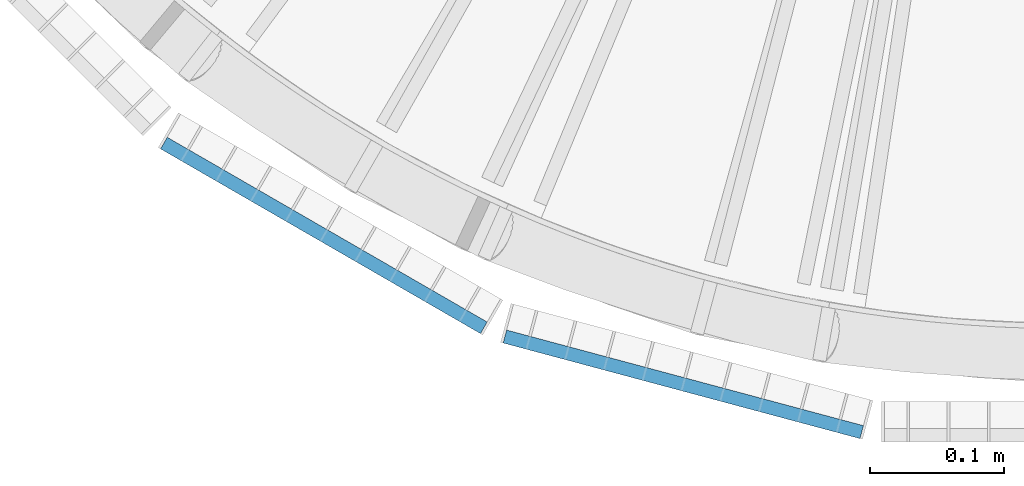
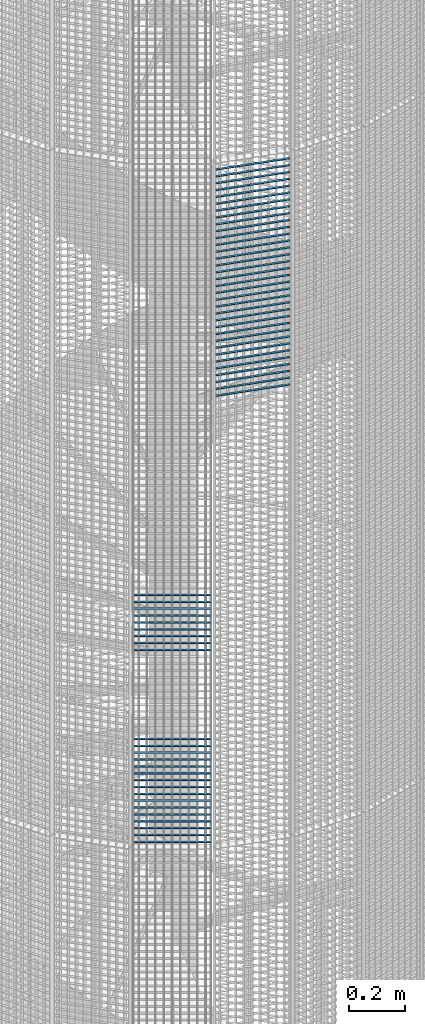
# One storey, part 363 of 1148: 59 beams, 2 elements without a shape of their own.
"""IFC2X3 building model written with IfcOpenShell, lengths in millimetres."""

from ifc_helpers import new_model, si_unit, frame, origin_with_axes, origin_2d_with_axis, place, context, subcontext, project, spatial, rectangle, extrude, material, type_object, element, aggregate, save


model = new_model("IFC2X3")

# Units and contexts
model_context = context("Model", 3, precision=1e-05, world=origin_with_axes())
body_context = subcontext(model_context, "Body", "Model", "MODEL_VIEW")
ifc_project = project(units=[si_unit("LENGTHUNIT", "METRE", prefix="MILLI"), si_unit("AREAUNIT", "SQUARE_METRE"), si_unit("VOLUMEUNIT", "CUBIC_METRE"), si_unit("MASSUNIT", "GRAM", prefix="KILO"), si_unit("TIMEUNIT", "SECOND"), si_unit("PLANEANGLEUNIT", "RADIAN"), si_unit("SOLIDANGLEUNIT", "STERADIAN"), si_unit("THERMODYNAMICTEMPERATUREUNIT", "DEGREE_CELSIUS"), si_unit("LUMINOUSINTENSITYUNIT", "LUMEN")], contexts=[model_context])

# Site, building, storey
site_placement = place(None, origin_with_axes())
site = spatial("IfcSite", under=ifc_project, at=site_placement, Name="Undefined", CompositionType="ELEMENT")
building_placement = place(site_placement, origin_with_axes())
building = spatial("IfcBuilding", under=site, at=building_placement, Name="Undefined", CompositionType="ELEMENT")
storey_placement = place(building_placement, origin_with_axes())
storey = spatial("IfcBuildingStorey", under=building, at=storey_placement, Name="Undefined", CompositionType="ELEMENT", Elevation=0.0)

# Assembly, beams
assembly_1_placement = place(storey_placement, origin_with_axes())
assembly_1 = element("IfcElementAssembly", 1, at=assembly_1_placement, inside=storey, Name="BORDURE", AssemblyPlace="NOTDEFINED", PredefinedType="NOTDEFINED")
ifc_material = material(Name="STEEL/S235JR")
beam_type = type_object("IfcBeamType", Name="PL2*10", PredefinedType="NOTDEFINED")
beam_1_placement = place(assembly_1_placement, frame((21162.7680445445, -1033.29996828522, 3480.0), z_axis=(-0.49999999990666, -0.866025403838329, 0.0), x_axis=(-0.866025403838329, 0.499999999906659, 0.0)))
beam_1 = element("IfcBeam", 2, at=beam_1_placement, type_object=beam_type, material=ifc_material, Name="ENTRETOISE", context=body_context, shape_type="SweptSolid", body=[
    extrude(rectangle(XDim=2.0, YDim=10.0, at=origin_2d_with_axis()), frame((275.999999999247, 9.09494701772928e-13, 1.53210777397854e-14), z_axis=(-1.0, 0.0, 0.0), x_axis=(0.0, -1.0, 0.0)), (0.0, 0.0, 1.0), 276.0),
])
beam_2_placement = place(assembly_1_placement, frame((21162.7680445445, -1033.29996828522, 3870.0), z_axis=(-0.49999999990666, -0.866025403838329, 0.0), x_axis=(-0.866025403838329, 0.499999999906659, 0.0)))
beam_2 = element("IfcBeam", 3, at=beam_2_placement, type_object=beam_type, material=ifc_material, Name="ENTRETOISE", context=body_context, shape_type="SweptSolid", body=[
    extrude(rectangle(XDim=2.0, YDim=10.0, at=origin_2d_with_axis()), frame((275.999999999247, 9.09494701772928e-13, 1.53210777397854e-14), z_axis=(-1.0, 0.0, 0.0), x_axis=(0.0, -1.0, 0.0)), (0.0, 0.0, 1.0), 276.0),
])
beam_3_placement = place(assembly_1_placement, frame((21162.7680445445, -1033.29996828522, 3450.0), z_axis=(-0.49999999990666, -0.866025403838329, 0.0), x_axis=(-0.866025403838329, 0.499999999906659, 0.0)))
beam_3 = element("IfcBeam", 4, at=beam_3_placement, type_object=beam_type, material=ifc_material, Name="ENTRETOISE", context=body_context, shape_type="SweptSolid", body=[
    extrude(rectangle(XDim=2.0, YDim=10.0, at=origin_2d_with_axis()), frame((275.999999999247, 9.09494701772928e-13, 1.53210777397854e-14), z_axis=(-1.0, 0.0, 0.0), x_axis=(0.0, -1.0, 0.0)), (0.0, 0.0, 1.0), 276.0),
])
beam_4_placement = place(assembly_1_placement, frame((21162.7680445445, -1033.29996828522, 3420.0), z_axis=(-0.49999999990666, -0.866025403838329, 0.0), x_axis=(-0.866025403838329, 0.499999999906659, 0.0)))
beam_4 = element("IfcBeam", 5, at=beam_4_placement, type_object=beam_type, material=ifc_material, Name="ENTRETOISE", context=body_context, shape_type="SweptSolid", body=[
    extrude(rectangle(XDim=2.0, YDim=10.0, at=origin_2d_with_axis()), frame((275.999999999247, 9.09494701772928e-13, 1.53210777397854e-14), z_axis=(-1.0, 0.0, 0.0), x_axis=(0.0, -1.0, 0.0)), (0.0, 0.0, 1.0), 276.0),
])
beam_5_placement = place(assembly_1_placement, frame((21162.7680445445, -1033.29996828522, 3900.0), z_axis=(-0.49999999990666, -0.866025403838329, 0.0), x_axis=(-0.866025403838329, 0.499999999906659, 0.0)))
beam_5 = element("IfcBeam", 6, at=beam_5_placement, type_object=beam_type, material=ifc_material, Name="ENTRETOISE", context=body_context, shape_type="SweptSolid", body=[
    extrude(rectangle(XDim=2.0, YDim=10.0, at=origin_2d_with_axis()), frame((275.999999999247, 9.09494701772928e-13, 1.53210777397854e-14), z_axis=(-1.0, 0.0, 0.0), x_axis=(0.0, -1.0, 0.0)), (0.0, 0.0, 1.0), 276.0),
])
beam_6_placement = place(assembly_1_placement, frame((21162.7680445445, -1033.29996828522, 3390.0), z_axis=(-0.49999999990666, -0.866025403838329, 0.0), x_axis=(-0.866025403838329, 0.499999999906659, 0.0)))
beam_6 = element("IfcBeam", 7, at=beam_6_placement, type_object=beam_type, material=ifc_material, Name="ENTRETOISE", context=body_context, shape_type="SweptSolid", body=[
    extrude(rectangle(XDim=2.0, YDim=10.0, at=origin_2d_with_axis()), frame((275.999999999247, 9.09494701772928e-13, 1.53210777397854e-14), z_axis=(-1.0, 0.0, 0.0), x_axis=(0.0, -1.0, 0.0)), (0.0, 0.0, 1.0), 276.0),
])
beam_7_placement = place(assembly_1_placement, frame((21162.7680445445, -1033.29996828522, 3930.0), z_axis=(-0.49999999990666, -0.866025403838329, 0.0), x_axis=(-0.866025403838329, 0.499999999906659, 0.0)))
beam_7 = element("IfcBeam", 8, at=beam_7_placement, type_object=beam_type, material=ifc_material, Name="ENTRETOISE", context=body_context, shape_type="SweptSolid", body=[
    extrude(rectangle(XDim=2.0, YDim=10.0, at=origin_2d_with_axis()), frame((275.999999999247, 9.09494701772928e-13, 1.53210777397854e-14), z_axis=(-1.0, 0.0, 0.0), x_axis=(0.0, -1.0, 0.0)), (0.0, 0.0, 1.0), 276.0),
])
beam_8_placement = place(assembly_1_placement, frame((21162.7680445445, -1033.29996828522, 3360.0), z_axis=(-0.49999999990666, -0.866025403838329, 0.0), x_axis=(-0.866025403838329, 0.499999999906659, 0.0)))
beam_8 = element("IfcBeam", 9, at=beam_8_placement, type_object=beam_type, material=ifc_material, Name="ENTRETOISE", context=body_context, shape_type="SweptSolid", body=[
    extrude(rectangle(XDim=2.0, YDim=10.0, at=origin_2d_with_axis()), frame((275.999999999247, 9.09494701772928e-13, 1.53210777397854e-14), z_axis=(-1.0, 0.0, 0.0), x_axis=(0.0, -1.0, 0.0)), (0.0, 0.0, 1.0), 276.0),
])
beam_9_placement = place(assembly_1_placement, frame((21162.7680445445, -1033.29996828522, 3330.0), z_axis=(-0.49999999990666, -0.866025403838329, 0.0), x_axis=(-0.866025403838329, 0.499999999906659, 0.0)))
beam_9 = element("IfcBeam", 10, at=beam_9_placement, type_object=beam_type, material=ifc_material, Name="ENTRETOISE", context=body_context, shape_type="SweptSolid", body=[
    extrude(rectangle(XDim=2.0, YDim=10.0, at=origin_2d_with_axis()), frame((275.999999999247, 9.09494701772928e-13, 1.53210777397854e-14), z_axis=(-1.0, 0.0, 0.0), x_axis=(0.0, -1.0, 0.0)), (0.0, 0.0, 1.0), 276.0),
])
beam_10_placement = place(assembly_1_placement, frame((21162.7680445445, -1033.29996828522, 3960.0), z_axis=(-0.49999999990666, -0.866025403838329, 0.0), x_axis=(-0.866025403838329, 0.499999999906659, 0.0)))
beam_10 = element("IfcBeam", 11, at=beam_10_placement, type_object=beam_type, material=ifc_material, Name="ENTRETOISE", context=body_context, shape_type="SweptSolid", body=[
    extrude(rectangle(XDim=2.0, YDim=10.0, at=origin_2d_with_axis()), frame((275.999999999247, 9.09494701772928e-13, 1.53210777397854e-14), z_axis=(-1.0, 0.0, 0.0), x_axis=(0.0, -1.0, 0.0)), (0.0, 0.0, 1.0), 276.0),
])
beam_11_placement = place(assembly_1_placement, frame((21162.7680445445, -1033.29996828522, 3300.0), z_axis=(-0.49999999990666, -0.866025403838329, 0.0), x_axis=(-0.866025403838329, 0.499999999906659, 0.0)))
beam_11 = element("IfcBeam", 12, at=beam_11_placement, type_object=beam_type, material=ifc_material, Name="ENTRETOISE", context=body_context, shape_type="SweptSolid", body=[
    extrude(rectangle(XDim=2.0, YDim=10.0, at=origin_2d_with_axis()), frame((275.999999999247, 9.09494701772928e-13, 1.53210777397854e-14), z_axis=(-1.0, 0.0, 0.0), x_axis=(0.0, -1.0, 0.0)), (0.0, 0.0, 1.0), 276.0),
])
beam_12_placement = place(assembly_1_placement, frame((21162.7680445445, -1033.29996828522, 3270.0), z_axis=(-0.49999999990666, -0.866025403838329, 0.0), x_axis=(-0.866025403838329, 0.499999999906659, 0.0)))
beam_12 = element("IfcBeam", 13, at=beam_12_placement, type_object=beam_type, material=ifc_material, Name="ENTRETOISE", context=body_context, shape_type="SweptSolid", body=[
    extrude(rectangle(XDim=2.0, YDim=10.0, at=origin_2d_with_axis()), frame((275.999999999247, 9.09494701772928e-13, 1.53210777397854e-14), z_axis=(-1.0, 0.0, 0.0), x_axis=(0.0, -1.0, 0.0)), (0.0, 0.0, 1.0), 276.0),
])
beam_13_placement = place(assembly_1_placement, frame((21162.7680445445, -1033.29996828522, 3990.0), z_axis=(-0.49999999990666, -0.866025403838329, 0.0), x_axis=(-0.866025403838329, 0.499999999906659, 0.0)))
beam_13 = element("IfcBeam", 14, at=beam_13_placement, type_object=beam_type, material=ifc_material, Name="ENTRETOISE", context=body_context, shape_type="SweptSolid", body=[
    extrude(rectangle(XDim=2.0, YDim=10.0, at=origin_2d_with_axis()), frame((275.999999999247, 9.09494701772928e-13, 1.53210777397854e-14), z_axis=(-1.0, 0.0, 0.0), x_axis=(0.0, -1.0, 0.0)), (0.0, 0.0, 1.0), 276.0),
])
beam_14_placement = place(assembly_1_placement, frame((21162.7680445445, -1033.29996828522, 3240.0), z_axis=(-0.49999999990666, -0.866025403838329, 0.0), x_axis=(-0.866025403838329, 0.499999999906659, 0.0)))
beam_14 = element("IfcBeam", 15, at=beam_14_placement, type_object=beam_type, material=ifc_material, Name="ENTRETOISE", context=body_context, shape_type="SweptSolid", body=[
    extrude(rectangle(XDim=2.0, YDim=10.0, at=origin_2d_with_axis()), frame((275.999999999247, 9.09494701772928e-13, 1.53210777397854e-14), z_axis=(-1.0, 0.0, 0.0), x_axis=(0.0, -1.0, 0.0)), (0.0, 0.0, 1.0), 276.0),
])
beam_15_placement = place(assembly_1_placement, frame((21162.7680445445, -1033.29996828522, 4020.0), z_axis=(-0.49999999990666, -0.866025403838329, 0.0), x_axis=(-0.866025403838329, 0.499999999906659, 0.0)))
beam_15 = element("IfcBeam", 16, at=beam_15_placement, type_object=beam_type, material=ifc_material, Name="ENTRETOISE", context=body_context, shape_type="SweptSolid", body=[
    extrude(rectangle(XDim=2.0, YDim=10.0, at=origin_2d_with_axis()), frame((275.999999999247, 9.09494701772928e-13, 1.53210777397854e-14), z_axis=(-1.0, 0.0, 0.0), x_axis=(0.0, -1.0, 0.0)), (0.0, 0.0, 1.0), 276.0),
])
beam_16_placement = place(assembly_1_placement, frame((21162.7680445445, -1033.29996828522, 3210.0), z_axis=(-0.49999999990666, -0.866025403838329, 0.0), x_axis=(-0.866025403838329, 0.499999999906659, 0.0)))
beam_16 = element("IfcBeam", 17, at=beam_16_placement, type_object=beam_type, material=ifc_material, Name="ENTRETOISE", context=body_context, shape_type="SweptSolid", body=[
    extrude(rectangle(XDim=2.0, YDim=10.0, at=origin_2d_with_axis()), frame((275.999999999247, 9.09494701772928e-13, 1.53210777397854e-14), z_axis=(-1.0, 0.0, 0.0), x_axis=(0.0, -1.0, 0.0)), (0.0, 0.0, 1.0), 276.0),
])
beam_17_placement = place(assembly_1_placement, frame((21162.7680445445, -1033.29996828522, 3180.0), z_axis=(-0.49999999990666, -0.866025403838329, 0.0), x_axis=(-0.866025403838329, 0.499999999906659, 0.0)))
beam_17 = element("IfcBeam", 18, at=beam_17_placement, type_object=beam_type, material=ifc_material, Name="ENTRETOISE", context=body_context, shape_type="SweptSolid", body=[
    extrude(rectangle(XDim=2.0, YDim=10.0, at=origin_2d_with_axis()), frame((275.999999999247, 9.09494701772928e-13, 1.53210777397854e-14), z_axis=(-1.0, 0.0, 0.0), x_axis=(0.0, -1.0, 0.0)), (0.0, 0.0, 1.0), 276.0),
])
beam_18_placement = place(assembly_1_placement, frame((21162.7680445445, -1033.29996828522, 4050.0), z_axis=(-0.49999999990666, -0.866025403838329, 0.0), x_axis=(-0.866025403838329, 0.499999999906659, 0.0)))
beam_18 = element("IfcBeam", 19, at=beam_18_placement, type_object=beam_type, material=ifc_material, Name="ENTRETOISE", context=body_context, shape_type="SweptSolid", body=[
    extrude(rectangle(XDim=2.0, YDim=10.0, at=origin_2d_with_axis()), frame((275.999999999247, 9.09494701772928e-13, 1.53210777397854e-14), z_axis=(-1.0, 0.0, 0.0), x_axis=(0.0, -1.0, 0.0)), (0.0, 0.0, 1.0), 276.0),
])
beam_19_placement = place(assembly_1_placement, frame((21162.7680445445, -1033.29996828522, 3150.0), z_axis=(-0.49999999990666, -0.866025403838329, 0.0), x_axis=(-0.866025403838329, 0.499999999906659, 0.0)))
beam_19 = element("IfcBeam", 20, at=beam_19_placement, type_object=beam_type, material=ifc_material, Name="ENTRETOISE", context=body_context, shape_type="SweptSolid", body=[
    extrude(rectangle(XDim=2.0, YDim=10.0, at=origin_2d_with_axis()), frame((275.999999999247, 9.09494701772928e-13, 1.53210777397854e-14), z_axis=(-1.0, 0.0, 0.0), x_axis=(0.0, -1.0, 0.0)), (0.0, 0.0, 1.0), 276.0),
])
beam_20_placement = place(assembly_1_placement, frame((21162.7680445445, -1033.29996828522, 3120.0), z_axis=(-0.49999999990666, -0.866025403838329, 0.0), x_axis=(-0.866025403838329, 0.499999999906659, 0.0)))
beam_20 = element("IfcBeam", 21, at=beam_20_placement, type_object=beam_type, material=ifc_material, Name="ENTRETOISE", context=body_context, shape_type="SweptSolid", body=[
    extrude(rectangle(XDim=2.0, YDim=10.0, at=origin_2d_with_axis()), frame((275.999999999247, 9.09494701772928e-13, 1.53210777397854e-14), z_axis=(-1.0, 0.0, 0.0), x_axis=(0.0, -1.0, 0.0)), (0.0, 0.0, 1.0), 276.0),
])
beam_21_placement = place(assembly_1_placement, frame((21162.7680445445, -1033.29996828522, 4080.0), z_axis=(-0.49999999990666, -0.866025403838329, 0.0), x_axis=(-0.866025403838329, 0.499999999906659, 0.0)))
beam_21 = element("IfcBeam", 22, at=beam_21_placement, type_object=beam_type, material=ifc_material, Name="ENTRETOISE", context=body_context, shape_type="SweptSolid", body=[
    extrude(rectangle(XDim=2.0, YDim=10.0, at=origin_2d_with_axis()), frame((275.999999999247, 9.09494701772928e-13, 1.53210777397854e-14), z_axis=(-1.0, 0.0, 0.0), x_axis=(0.0, -1.0, 0.0)), (0.0, 0.0, 1.0), 276.0),
])
beam_22_placement = place(assembly_1_placement, frame((21162.7680445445, -1033.29996828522, 3090.0), z_axis=(-0.49999999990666, -0.866025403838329, 0.0), x_axis=(-0.866025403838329, 0.499999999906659, 0.0)))
beam_22 = element("IfcBeam", 23, at=beam_22_placement, type_object=beam_type, material=ifc_material, Name="ENTRETOISE", context=body_context, shape_type="SweptSolid", body=[
    extrude(rectangle(XDim=2.0, YDim=10.0, at=origin_2d_with_axis()), frame((275.999999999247, 9.09494701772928e-13, 1.53210777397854e-14), z_axis=(-1.0, 0.0, 0.0), x_axis=(0.0, -1.0, 0.0)), (0.0, 0.0, 1.0), 276.0),
])
beam_23_placement = place(assembly_1_placement, frame((21162.7680445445, -1033.29996828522, 3060.0), z_axis=(-0.49999999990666, -0.866025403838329, 0.0), x_axis=(-0.866025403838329, 0.499999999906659, 0.0)))
beam_23 = element("IfcBeam", 24, at=beam_23_placement, type_object=beam_type, material=ifc_material, Name="ENTRETOISE", context=body_context, shape_type="SweptSolid", body=[
    extrude(rectangle(XDim=2.0, YDim=10.0, at=origin_2d_with_axis()), frame((275.999999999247, 9.09494701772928e-13, 1.53210777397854e-14), z_axis=(-1.0, 0.0, 0.0), x_axis=(0.0, -1.0, 0.0)), (0.0, 0.0, 1.0), 276.0),
])
beam_24_placement = place(assembly_1_placement, frame((21162.7680445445, -1033.29996828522, 4110.0), z_axis=(-0.49999999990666, -0.866025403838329, 0.0), x_axis=(-0.866025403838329, 0.499999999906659, 0.0)))
beam_24 = element("IfcBeam", 25, at=beam_24_placement, type_object=beam_type, material=ifc_material, Name="ENTRETOISE", context=body_context, shape_type="SweptSolid", body=[
    extrude(rectangle(XDim=2.0, YDim=10.0, at=origin_2d_with_axis()), frame((275.999999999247, 9.09494701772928e-13, 1.53210777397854e-14), z_axis=(-1.0, 0.0, 0.0), x_axis=(0.0, -1.0, 0.0)), (0.0, 0.0, 1.0), 276.0),
])
beam_25_placement = place(assembly_1_placement, frame((21162.7680445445, -1033.29996828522, 3030.0), z_axis=(-0.49999999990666, -0.866025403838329, 0.0), x_axis=(-0.866025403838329, 0.499999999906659, 0.0)))
beam_25 = element("IfcBeam", 26, at=beam_25_placement, type_object=beam_type, material=ifc_material, Name="ENTRETOISE", context=body_context, shape_type="SweptSolid", body=[
    extrude(rectangle(XDim=2.0, YDim=10.0, at=origin_2d_with_axis()), frame((275.999999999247, 9.09494701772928e-13, 1.53210777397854e-14), z_axis=(-1.0, 0.0, 0.0), x_axis=(0.0, -1.0, 0.0)), (0.0, 0.0, 1.0), 276.0),
])
aggregate(assembly_1, [beam_1, beam_2, beam_3, beam_4, beam_5, beam_6, beam_7, beam_8, beam_9, beam_10, beam_11, beam_12, beam_13, beam_14, beam_15, beam_16, beam_17, beam_18, beam_19, beam_20, beam_21, beam_22, beam_23, beam_24, beam_25])

assembly_2_placement = place(storey_placement, origin_with_axes())
assembly_2 = element("IfcElementAssembly", 27, at=assembly_2_placement, inside=storey, Name="BORDURE", AssemblyPlace="NOTDEFINED", PredefinedType="NOTDEFINED")
beam_26_placement = place(assembly_2_placement, frame((21445.1040732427, -1111.25508286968, 5970.0), z_axis=(-0.258819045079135, -0.965925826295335, 0.0), x_axis=(-0.965925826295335, 0.258819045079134, 0.0)))
beam_26 = element("IfcBeam", 28, at=beam_26_placement, type_object=beam_type, material=ifc_material, Name="ENTRETOISE", context=body_context, shape_type="SweptSolid", body=[
    extrude(rectangle(XDim=2.0, YDim=10.0, at=origin_2d_with_axis()), frame((275.999999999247, 9.09494701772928e-13, 1.53210777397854e-14), z_axis=(-1.0, 0.0, 0.0), x_axis=(0.0, -1.0, 0.0)), (0.0, 0.0, 1.0), 276.0),
])
beam_27_placement = place(assembly_2_placement, frame((21445.1040732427, -1111.25508286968, 5940.0), z_axis=(-0.258819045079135, -0.965925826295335, 0.0), x_axis=(-0.965925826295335, 0.258819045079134, 0.0)))
beam_27 = element("IfcBeam", 29, at=beam_27_placement, type_object=beam_type, material=ifc_material, Name="ENTRETOISE", context=body_context, shape_type="SweptSolid", body=[
    extrude(rectangle(XDim=2.0, YDim=10.0, at=origin_2d_with_axis()), frame((275.999999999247, 9.09494701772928e-13, 1.53210777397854e-14), z_axis=(-1.0, 0.0, 0.0), x_axis=(0.0, -1.0, 0.0)), (0.0, 0.0, 1.0), 276.0),
])
beam_28_placement = place(assembly_2_placement, frame((21445.1040732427, -1111.25508286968, 5910.0), z_axis=(-0.258819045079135, -0.965925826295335, 0.0), x_axis=(-0.965925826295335, 0.258819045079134, 0.0)))
beam_28 = element("IfcBeam", 30, at=beam_28_placement, type_object=beam_type, material=ifc_material, Name="ENTRETOISE", context=body_context, shape_type="SweptSolid", body=[
    extrude(rectangle(XDim=2.0, YDim=10.0, at=origin_2d_with_axis()), frame((275.999999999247, 9.09494701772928e-13, 1.53210777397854e-14), z_axis=(-1.0, 0.0, 0.0), x_axis=(0.0, -1.0, 0.0)), (0.0, 0.0, 1.0), 276.0),
])
beam_29_placement = place(assembly_2_placement, frame((21445.1040732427, -1111.25508286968, 5880.0), z_axis=(-0.258819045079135, -0.965925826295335, 0.0), x_axis=(-0.965925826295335, 0.258819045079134, 0.0)))
beam_29 = element("IfcBeam", 31, at=beam_29_placement, type_object=beam_type, material=ifc_material, Name="ENTRETOISE", context=body_context, shape_type="SweptSolid", body=[
    extrude(rectangle(XDim=2.0, YDim=10.0, at=origin_2d_with_axis()), frame((275.999999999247, 9.09494701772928e-13, 1.53210777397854e-14), z_axis=(-1.0, 0.0, 0.0), x_axis=(0.0, -1.0, 0.0)), (0.0, 0.0, 1.0), 276.0),
])
beam_30_placement = place(assembly_2_placement, frame((21445.1040732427, -1111.25508286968, 5850.0), z_axis=(-0.258819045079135, -0.965925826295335, 0.0), x_axis=(-0.965925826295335, 0.258819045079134, 0.0)))
beam_30 = element("IfcBeam", 32, at=beam_30_placement, type_object=beam_type, material=ifc_material, Name="ENTRETOISE", context=body_context, shape_type="SweptSolid", body=[
    extrude(rectangle(XDim=2.0, YDim=10.0, at=origin_2d_with_axis()), frame((275.999999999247, 9.09494701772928e-13, 1.53210777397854e-14), z_axis=(-1.0, 0.0, 0.0), x_axis=(0.0, -1.0, 0.0)), (0.0, 0.0, 1.0), 276.0),
])
beam_31_placement = place(assembly_2_placement, frame((21445.1040732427, -1111.25508286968, 5820.0), z_axis=(-0.258819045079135, -0.965925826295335, 0.0), x_axis=(-0.965925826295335, 0.258819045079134, 0.0)))
beam_31 = element("IfcBeam", 33, at=beam_31_placement, type_object=beam_type, material=ifc_material, Name="ENTRETOISE", context=body_context, shape_type="SweptSolid", body=[
    extrude(rectangle(XDim=2.0, YDim=10.0, at=origin_2d_with_axis()), frame((275.999999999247, 9.09494701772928e-13, 1.53210777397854e-14), z_axis=(-1.0, 0.0, 0.0), x_axis=(0.0, -1.0, 0.0)), (0.0, 0.0, 1.0), 276.0),
])
beam_32_placement = place(assembly_2_placement, frame((21445.1040732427, -1111.25508286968, 5790.0), z_axis=(-0.258819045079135, -0.965925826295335, 0.0), x_axis=(-0.965925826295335, 0.258819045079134, 0.0)))
beam_32 = element("IfcBeam", 34, at=beam_32_placement, type_object=beam_type, material=ifc_material, Name="ENTRETOISE", context=body_context, shape_type="SweptSolid", body=[
    extrude(rectangle(XDim=2.0, YDim=10.0, at=origin_2d_with_axis()), frame((275.999999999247, 9.09494701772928e-13, 1.53210777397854e-14), z_axis=(-1.0, 0.0, 0.0), x_axis=(0.0, -1.0, 0.0)), (0.0, 0.0, 1.0), 276.0),
])
beam_33_placement = place(assembly_2_placement, frame((21445.1040732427, -1111.25508286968, 5760.0), z_axis=(-0.258819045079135, -0.965925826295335, 0.0), x_axis=(-0.965925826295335, 0.258819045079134, 0.0)))
beam_33 = element("IfcBeam", 35, at=beam_33_placement, type_object=beam_type, material=ifc_material, Name="ENTRETOISE", context=body_context, shape_type="SweptSolid", body=[
    extrude(rectangle(XDim=2.0, YDim=10.0, at=origin_2d_with_axis()), frame((275.999999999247, 9.09494701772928e-13, 1.53210777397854e-14), z_axis=(-1.0, 0.0, 0.0), x_axis=(0.0, -1.0, 0.0)), (0.0, 0.0, 1.0), 276.0),
])
beam_34_placement = place(assembly_2_placement, frame((21445.1040732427, -1111.25508286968, 5730.0), z_axis=(-0.258819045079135, -0.965925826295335, 0.0), x_axis=(-0.965925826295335, 0.258819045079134, 0.0)))
beam_34 = element("IfcBeam", 36, at=beam_34_placement, type_object=beam_type, material=ifc_material, Name="ENTRETOISE", context=body_context, shape_type="SweptSolid", body=[
    extrude(rectangle(XDim=2.0, YDim=10.0, at=origin_2d_with_axis()), frame((275.999999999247, 9.09494701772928e-13, 1.53210777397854e-14), z_axis=(-1.0, 0.0, 0.0), x_axis=(0.0, -1.0, 0.0)), (0.0, 0.0, 1.0), 276.0),
])
beam_35_placement = place(assembly_2_placement, frame((21445.1040732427, -1111.25508286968, 5700.0), z_axis=(-0.258819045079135, -0.965925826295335, 0.0), x_axis=(-0.965925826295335, 0.258819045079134, 0.0)))
beam_35 = element("IfcBeam", 37, at=beam_35_placement, type_object=beam_type, material=ifc_material, Name="ENTRETOISE", context=body_context, shape_type="SweptSolid", body=[
    extrude(rectangle(XDim=2.0, YDim=10.0, at=origin_2d_with_axis()), frame((275.999999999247, 9.09494701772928e-13, 1.53210777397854e-14), z_axis=(-1.0, 0.0, 0.0), x_axis=(0.0, -1.0, 0.0)), (0.0, 0.0, 1.0), 276.0),
])
beam_36_placement = place(assembly_2_placement, frame((21445.1040732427, -1111.25508286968, 5670.0), z_axis=(-0.258819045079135, -0.965925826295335, 0.0), x_axis=(-0.965925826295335, 0.258819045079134, 0.0)))
beam_36 = element("IfcBeam", 38, at=beam_36_placement, type_object=beam_type, material=ifc_material, Name="ENTRETOISE", context=body_context, shape_type="SweptSolid", body=[
    extrude(rectangle(XDim=2.0, YDim=10.0, at=origin_2d_with_axis()), frame((275.999999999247, 9.09494701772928e-13, 1.53210777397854e-14), z_axis=(-1.0, 0.0, 0.0), x_axis=(0.0, -1.0, 0.0)), (0.0, 0.0, 1.0), 276.0),
])
beam_37_placement = place(assembly_2_placement, frame((21445.1040732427, -1111.25508286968, 5640.0), z_axis=(-0.258819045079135, -0.965925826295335, 0.0), x_axis=(-0.965925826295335, 0.258819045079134, 0.0)))
beam_37 = element("IfcBeam", 39, at=beam_37_placement, type_object=beam_type, material=ifc_material, Name="ENTRETOISE", context=body_context, shape_type="SweptSolid", body=[
    extrude(rectangle(XDim=2.0, YDim=10.0, at=origin_2d_with_axis()), frame((275.999999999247, 9.09494701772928e-13, 1.53210777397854e-14), z_axis=(-1.0, 0.0, 0.0), x_axis=(0.0, -1.0, 0.0)), (0.0, 0.0, 1.0), 276.0),
])
beam_38_placement = place(assembly_2_placement, frame((21445.1040732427, -1111.25508286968, 5610.0), z_axis=(-0.258819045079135, -0.965925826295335, 0.0), x_axis=(-0.965925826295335, 0.258819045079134, 0.0)))
beam_38 = element("IfcBeam", 40, at=beam_38_placement, type_object=beam_type, material=ifc_material, Name="ENTRETOISE", context=body_context, shape_type="SweptSolid", body=[
    extrude(rectangle(XDim=2.0, YDim=10.0, at=origin_2d_with_axis()), frame((275.999999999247, 9.09494701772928e-13, 1.53210777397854e-14), z_axis=(-1.0, 0.0, 0.0), x_axis=(0.0, -1.0, 0.0)), (0.0, 0.0, 1.0), 276.0),
])
beam_39_placement = place(assembly_2_placement, frame((21445.1040732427, -1111.25508286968, 5580.0), z_axis=(-0.258819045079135, -0.965925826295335, 0.0), x_axis=(-0.965925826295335, 0.258819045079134, 0.0)))
beam_39 = element("IfcBeam", 41, at=beam_39_placement, type_object=beam_type, material=ifc_material, Name="ENTRETOISE", context=body_context, shape_type="SweptSolid", body=[
    extrude(rectangle(XDim=2.0, YDim=10.0, at=origin_2d_with_axis()), frame((275.999999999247, 9.09494701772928e-13, 1.53210777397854e-14), z_axis=(-1.0, 0.0, 0.0), x_axis=(0.0, -1.0, 0.0)), (0.0, 0.0, 1.0), 276.0),
])
beam_40_placement = place(assembly_2_placement, frame((21445.1040732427, -1111.25508286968, 5550.0), z_axis=(-0.258819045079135, -0.965925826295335, 0.0), x_axis=(-0.965925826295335, 0.258819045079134, 0.0)))
beam_40 = element("IfcBeam", 42, at=beam_40_placement, type_object=beam_type, material=ifc_material, Name="ENTRETOISE", context=body_context, shape_type="SweptSolid", body=[
    extrude(rectangle(XDim=2.0, YDim=10.0, at=origin_2d_with_axis()), frame((275.999999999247, 9.09494701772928e-13, 1.53210777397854e-14), z_axis=(-1.0, 0.0, 0.0), x_axis=(0.0, -1.0, 0.0)), (0.0, 0.0, 1.0), 276.0),
])
beam_41_placement = place(assembly_2_placement, frame((21445.1040732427, -1111.25508286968, 5520.0), z_axis=(-0.258819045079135, -0.965925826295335, 0.0), x_axis=(-0.965925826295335, 0.258819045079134, 0.0)))
beam_41 = element("IfcBeam", 43, at=beam_41_placement, type_object=beam_type, material=ifc_material, Name="ENTRETOISE", context=body_context, shape_type="SweptSolid", body=[
    extrude(rectangle(XDim=2.0, YDim=10.0, at=origin_2d_with_axis()), frame((275.999999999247, 9.09494701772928e-13, 1.53210777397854e-14), z_axis=(-1.0, 0.0, 0.0), x_axis=(0.0, -1.0, 0.0)), (0.0, 0.0, 1.0), 276.0),
])
beam_42_placement = place(assembly_2_placement, frame((21445.1040732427, -1111.25508286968, 5490.0), z_axis=(-0.258819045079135, -0.965925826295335, 0.0), x_axis=(-0.965925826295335, 0.258819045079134, 0.0)))
beam_42 = element("IfcBeam", 44, at=beam_42_placement, type_object=beam_type, material=ifc_material, Name="ENTRETOISE", context=body_context, shape_type="SweptSolid", body=[
    extrude(rectangle(XDim=2.0, YDim=10.0, at=origin_2d_with_axis()), frame((275.999999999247, 9.09494701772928e-13, 1.53210777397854e-14), z_axis=(-1.0, 0.0, 0.0), x_axis=(0.0, -1.0, 0.0)), (0.0, 0.0, 1.0), 276.0),
])
beam_43_placement = place(assembly_2_placement, frame((21445.1040732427, -1111.25508286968, 5460.0), z_axis=(-0.258819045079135, -0.965925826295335, 0.0), x_axis=(-0.965925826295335, 0.258819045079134, 0.0)))
beam_43 = element("IfcBeam", 45, at=beam_43_placement, type_object=beam_type, material=ifc_material, Name="ENTRETOISE", context=body_context, shape_type="SweptSolid", body=[
    extrude(rectangle(XDim=2.0, YDim=10.0, at=origin_2d_with_axis()), frame((275.999999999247, 9.09494701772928e-13, 1.53210777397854e-14), z_axis=(-1.0, 0.0, 0.0), x_axis=(0.0, -1.0, 0.0)), (0.0, 0.0, 1.0), 276.0),
])
beam_44_placement = place(assembly_2_placement, frame((21445.1040732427, -1111.25508286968, 5430.0), z_axis=(-0.258819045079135, -0.965925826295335, 0.0), x_axis=(-0.965925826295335, 0.258819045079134, 0.0)))
beam_44 = element("IfcBeam", 46, at=beam_44_placement, type_object=beam_type, material=ifc_material, Name="ENTRETOISE", context=body_context, shape_type="SweptSolid", body=[
    extrude(rectangle(XDim=2.0, YDim=10.0, at=origin_2d_with_axis()), frame((275.999999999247, 9.09494701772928e-13, 1.53210777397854e-14), z_axis=(-1.0, 0.0, 0.0), x_axis=(0.0, -1.0, 0.0)), (0.0, 0.0, 1.0), 276.0),
])
beam_45_placement = place(assembly_2_placement, frame((21445.1040732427, -1111.25508286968, 5400.0), z_axis=(-0.258819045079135, -0.965925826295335, 0.0), x_axis=(-0.965925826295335, 0.258819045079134, 0.0)))
beam_45 = element("IfcBeam", 47, at=beam_45_placement, type_object=beam_type, material=ifc_material, Name="ENTRETOISE", context=body_context, shape_type="SweptSolid", body=[
    extrude(rectangle(XDim=2.0, YDim=10.0, at=origin_2d_with_axis()), frame((275.999999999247, 9.09494701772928e-13, 1.53210777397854e-14), z_axis=(-1.0, 0.0, 0.0), x_axis=(0.0, -1.0, 0.0)), (0.0, 0.0, 1.0), 276.0),
])
beam_46_placement = place(assembly_2_placement, frame((21445.1040732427, -1111.25508286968, 5370.0), z_axis=(-0.258819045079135, -0.965925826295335, 0.0), x_axis=(-0.965925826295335, 0.258819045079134, 0.0)))
beam_46 = element("IfcBeam", 48, at=beam_46_placement, type_object=beam_type, material=ifc_material, Name="ENTRETOISE", context=body_context, shape_type="SweptSolid", body=[
    extrude(rectangle(XDim=2.0, YDim=10.0, at=origin_2d_with_axis()), frame((275.999999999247, 9.09494701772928e-13, 1.53210777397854e-14), z_axis=(-1.0, 0.0, 0.0), x_axis=(0.0, -1.0, 0.0)), (0.0, 0.0, 1.0), 276.0),
])
beam_47_placement = place(assembly_2_placement, frame((21445.1040732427, -1111.25508286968, 5340.0), z_axis=(-0.258819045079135, -0.965925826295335, 0.0), x_axis=(-0.965925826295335, 0.258819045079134, 0.0)))
beam_47 = element("IfcBeam", 49, at=beam_47_placement, type_object=beam_type, material=ifc_material, Name="ENTRETOISE", context=body_context, shape_type="SweptSolid", body=[
    extrude(rectangle(XDim=2.0, YDim=10.0, at=origin_2d_with_axis()), frame((275.999999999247, 9.09494701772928e-13, 1.53210777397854e-14), z_axis=(-1.0, 0.0, 0.0), x_axis=(0.0, -1.0, 0.0)), (0.0, 0.0, 1.0), 276.0),
])
beam_48_placement = place(assembly_2_placement, frame((21445.1040732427, -1111.25508286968, 5310.0), z_axis=(-0.258819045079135, -0.965925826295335, 0.0), x_axis=(-0.965925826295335, 0.258819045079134, 0.0)))
beam_48 = element("IfcBeam", 50, at=beam_48_placement, type_object=beam_type, material=ifc_material, Name="ENTRETOISE", context=body_context, shape_type="SweptSolid", body=[
    extrude(rectangle(XDim=2.0, YDim=10.0, at=origin_2d_with_axis()), frame((275.999999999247, 9.09494701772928e-13, 1.53210777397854e-14), z_axis=(-1.0, 0.0, 0.0), x_axis=(0.0, -1.0, 0.0)), (0.0, 0.0, 1.0), 276.0),
])
beam_49_placement = place(assembly_2_placement, frame((21445.1040732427, -1111.25508286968, 5280.0), z_axis=(-0.258819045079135, -0.965925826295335, 0.0), x_axis=(-0.965925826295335, 0.258819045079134, 0.0)))
beam_49 = element("IfcBeam", 51, at=beam_49_placement, type_object=beam_type, material=ifc_material, Name="ENTRETOISE", context=body_context, shape_type="SweptSolid", body=[
    extrude(rectangle(XDim=2.0, YDim=10.0, at=origin_2d_with_axis()), frame((275.999999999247, 9.09494701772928e-13, 1.53210777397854e-14), z_axis=(-1.0, 0.0, 0.0), x_axis=(0.0, -1.0, 0.0)), (0.0, 0.0, 1.0), 276.0),
])
beam_50_placement = place(assembly_2_placement, frame((21445.1040732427, -1111.25508286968, 5250.0), z_axis=(-0.258819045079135, -0.965925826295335, 0.0), x_axis=(-0.965925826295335, 0.258819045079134, 0.0)))
beam_50 = element("IfcBeam", 52, at=beam_50_placement, type_object=beam_type, material=ifc_material, Name="ENTRETOISE", context=body_context, shape_type="SweptSolid", body=[
    extrude(rectangle(XDim=2.0, YDim=10.0, at=origin_2d_with_axis()), frame((275.999999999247, 9.09494701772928e-13, 1.53210777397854e-14), z_axis=(-1.0, 0.0, 0.0), x_axis=(0.0, -1.0, 0.0)), (0.0, 0.0, 1.0), 276.0),
])
beam_51_placement = place(assembly_2_placement, frame((21445.1040732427, -1111.25508286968, 5220.0), z_axis=(-0.258819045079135, -0.965925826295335, 0.0), x_axis=(-0.965925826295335, 0.258819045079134, 0.0)))
beam_51 = element("IfcBeam", 53, at=beam_51_placement, type_object=beam_type, material=ifc_material, Name="ENTRETOISE", context=body_context, shape_type="SweptSolid", body=[
    extrude(rectangle(XDim=2.0, YDim=10.0, at=origin_2d_with_axis()), frame((275.999999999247, 9.09494701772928e-13, 1.53210777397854e-14), z_axis=(-1.0, 0.0, 0.0), x_axis=(0.0, -1.0, 0.0)), (0.0, 0.0, 1.0), 276.0),
])
beam_52_placement = place(assembly_2_placement, frame((21445.1040732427, -1111.25508286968, 5190.0), z_axis=(-0.258819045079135, -0.965925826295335, 0.0), x_axis=(-0.965925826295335, 0.258819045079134, 0.0)))
beam_52 = element("IfcBeam", 54, at=beam_52_placement, type_object=beam_type, material=ifc_material, Name="ENTRETOISE", context=body_context, shape_type="SweptSolid", body=[
    extrude(rectangle(XDim=2.0, YDim=10.0, at=origin_2d_with_axis()), frame((275.999999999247, 9.09494701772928e-13, 1.53210777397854e-14), z_axis=(-1.0, 0.0, 0.0), x_axis=(0.0, -1.0, 0.0)), (0.0, 0.0, 1.0), 276.0),
])
beam_53_placement = place(assembly_2_placement, frame((21445.1040732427, -1111.25508286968, 5160.0), z_axis=(-0.258819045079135, -0.965925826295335, 0.0), x_axis=(-0.965925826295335, 0.258819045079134, 0.0)))
beam_53 = element("IfcBeam", 55, at=beam_53_placement, type_object=beam_type, material=ifc_material, Name="ENTRETOISE", context=body_context, shape_type="SweptSolid", body=[
    extrude(rectangle(XDim=2.0, YDim=10.0, at=origin_2d_with_axis()), frame((275.999999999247, 9.09494701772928e-13, 1.53210777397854e-14), z_axis=(-1.0, 0.0, 0.0), x_axis=(0.0, -1.0, 0.0)), (0.0, 0.0, 1.0), 276.0),
])
beam_54_placement = place(assembly_2_placement, frame((21445.1040732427, -1111.25508286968, 5130.0), z_axis=(-0.258819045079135, -0.965925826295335, 0.0), x_axis=(-0.965925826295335, 0.258819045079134, 0.0)))
beam_54 = element("IfcBeam", 56, at=beam_54_placement, type_object=beam_type, material=ifc_material, Name="ENTRETOISE", context=body_context, shape_type="SweptSolid", body=[
    extrude(rectangle(XDim=2.0, YDim=10.0, at=origin_2d_with_axis()), frame((275.999999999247, 9.09494701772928e-13, 1.53210777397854e-14), z_axis=(-1.0, 0.0, 0.0), x_axis=(0.0, -1.0, 0.0)), (0.0, 0.0, 1.0), 276.0),
])
beam_55_placement = place(assembly_2_placement, frame((21445.1040732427, -1111.25508286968, 5100.0), z_axis=(-0.258819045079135, -0.965925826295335, 0.0), x_axis=(-0.965925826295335, 0.258819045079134, 0.0)))
beam_55 = element("IfcBeam", 57, at=beam_55_placement, type_object=beam_type, material=ifc_material, Name="ENTRETOISE", context=body_context, shape_type="SweptSolid", body=[
    extrude(rectangle(XDim=2.0, YDim=10.0, at=origin_2d_with_axis()), frame((275.999999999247, 9.09494701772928e-13, 1.53210777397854e-14), z_axis=(-1.0, 0.0, 0.0), x_axis=(0.0, -1.0, 0.0)), (0.0, 0.0, 1.0), 276.0),
])
beam_56_placement = place(assembly_2_placement, frame((21445.1040732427, -1111.25508286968, 5070.0), z_axis=(-0.258819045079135, -0.965925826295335, 0.0), x_axis=(-0.965925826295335, 0.258819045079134, 0.0)))
beam_56 = element("IfcBeam", 58, at=beam_56_placement, type_object=beam_type, material=ifc_material, Name="ENTRETOISE", context=body_context, shape_type="SweptSolid", body=[
    extrude(rectangle(XDim=2.0, YDim=10.0, at=origin_2d_with_axis()), frame((275.999999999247, 9.09494701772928e-13, 1.53210777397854e-14), z_axis=(-1.0, 0.0, 0.0), x_axis=(0.0, -1.0, 0.0)), (0.0, 0.0, 1.0), 276.0),
])
beam_57_placement = place(assembly_2_placement, frame((21445.1040732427, -1111.25508286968, 5040.0), z_axis=(-0.258819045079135, -0.965925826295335, 0.0), x_axis=(-0.965925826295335, 0.258819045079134, 0.0)))
beam_57 = element("IfcBeam", 59, at=beam_57_placement, type_object=beam_type, material=ifc_material, Name="ENTRETOISE", context=body_context, shape_type="SweptSolid", body=[
    extrude(rectangle(XDim=2.0, YDim=10.0, at=origin_2d_with_axis()), frame((275.999999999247, 9.09494701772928e-13, 1.53210777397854e-14), z_axis=(-1.0, 0.0, 0.0), x_axis=(0.0, -1.0, 0.0)), (0.0, 0.0, 1.0), 276.0),
])
beam_58_placement = place(assembly_2_placement, frame((21445.1040732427, -1111.25508286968, 5010.0), z_axis=(-0.258819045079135, -0.965925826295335, 0.0), x_axis=(-0.965925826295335, 0.258819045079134, 0.0)))
beam_58 = element("IfcBeam", 60, at=beam_58_placement, type_object=beam_type, material=ifc_material, Name="ENTRETOISE", context=body_context, shape_type="SweptSolid", body=[
    extrude(rectangle(XDim=2.0, YDim=10.0, at=origin_2d_with_axis()), frame((275.999999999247, 9.09494701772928e-13, 1.53210777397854e-14), z_axis=(-1.0, 0.0, 0.0), x_axis=(0.0, -1.0, 0.0)), (0.0, 0.0, 1.0), 276.0),
])
beam_59_placement = place(assembly_2_placement, frame((21445.1040732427, -1111.25508286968, 4980.0), z_axis=(-0.258819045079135, -0.965925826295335, 0.0), x_axis=(-0.965925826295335, 0.258819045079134, 0.0)))
beam_59 = element("IfcBeam", 61, at=beam_59_placement, type_object=beam_type, material=ifc_material, Name="ENTRETOISE", context=body_context, shape_type="SweptSolid", body=[
    extrude(rectangle(XDim=2.0, YDim=10.0, at=origin_2d_with_axis()), frame((275.999999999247, 9.09494701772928e-13, 1.53210777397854e-14), z_axis=(-1.0, 0.0, 0.0), x_axis=(0.0, -1.0, 0.0)), (0.0, 0.0, 1.0), 276.0),
])
aggregate(assembly_2, [beam_26, beam_27, beam_28, beam_29, beam_30, beam_31, beam_32, beam_33, beam_34, beam_35, beam_36, beam_37, beam_38, beam_39, beam_40, beam_41, beam_42, beam_43, beam_44, beam_45, beam_46, beam_47, beam_48, beam_49, beam_50, beam_51, beam_52, beam_53, beam_54, beam_55, beam_56, beam_57, beam_58, beam_59])

save(model, "model.ifc")
